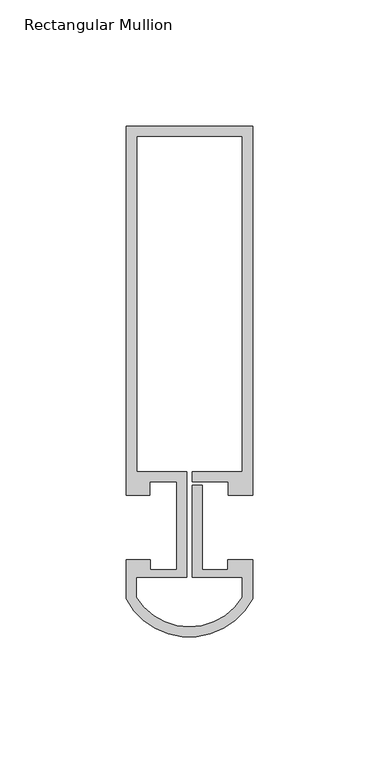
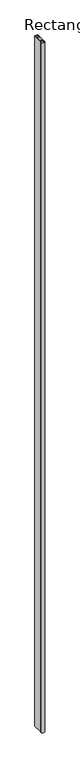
"""IFC4 building model written with IfcOpenShell, lengths in millimetres: member geometry, Rectangular Mullion : Reynaers_CW-50_Transom-Transom_Horizontal_146.5mm_Facecap-07."""

import ifcopenshell
import ifcopenshell.guid

model = None  # the IFC model being written
_history = None  # IfcOwnerHistory: only IFC2X3 demands one
_inside = {}  # id of a spatial element -> (the spatial element, [elements in it])
_under = {}  # id of a project, library or spatial element -> (it, [spatial elements below it])
_declared = {}  # id of a project -> (the project, [libraries it declares])
_typed = {}  # id of a type object -> (the type object, [elements of that type])
_made_of = {}  # id of a material, layer set ... -> (it, [elements and type objects made of it])


def new_model(schema):
    """Start an empty IFC model of exactly this schema.

    Asked for "IFC4X3", IfcOpenShell would pick the latest addendum, in which some entities
    have other attributes; the version numbers below select the first issue.
    IFC2X3 requires an IfcOwnerHistory on every rooted entity: one is made here for all.
    """
    global model, _history
    if schema == "IFC4X3":
        model = ifcopenshell.file(schema_version=(4, 3, 0, 0))
    else:
        model = ifcopenshell.file(schema=schema)
    _inside.clear()
    _under.clear()
    _declared.clear()
    _typed.clear()
    _made_of.clear()
    _history = None
    if model.schema == "IFC2X3":
        org = make("IfcOrganization", Name="unknown")
        user = make(
            "IfcPersonAndOrganization",
            ThePerson=make("IfcPerson", FamilyName="unknown"),
            TheOrganization=org,
        )
        app = make(
            "IfcApplication",
            ApplicationDeveloper=org,
            Version="unknown",
            ApplicationFullName="unknown",
            ApplicationIdentifier="unknown",
        )
        _history = make(
            "IfcOwnerHistory",
            OwningUser=user,
            OwningApplication=app,
            ChangeAction="ADDED",
            CreationDate=0,
        )
    return model


def make(cls, **values):
    """One entity of the class cls with the attributes given. An attribute that is None is left unset."""
    return model.create_entity(
        cls, **{name: value for name, value in values.items() if value is not None}
    )


def rooted(cls, **values):
    """An entity with a GlobalId (a new one), such as an element, a storey or a relation."""
    return make(cls, GlobalId=ifcopenshell.guid.new(), OwnerHistory=_history, **values)


def si_unit(unit_type, name, prefix=None):
    """IfcSIUnit, for example si_unit("LENGTHUNIT", "METRE", prefix="MILLI")."""
    return make("IfcSIUnit", UnitType=unit_type, Prefix=prefix, Name=name)


def assignment(units):
    """IfcUnitAssignment: the units of a project."""
    return None if units is None else make("IfcUnitAssignment", Units=units)


def point(xyz):
    """IfcCartesianPoint."""
    return None if xyz is None else make("IfcCartesianPoint", Coordinates=xyz)


def direction(xyz):
    """IfcDirection."""
    return None if xyz is None else make("IfcDirection", DirectionRatios=xyz)


def frame(location, z_axis=None, x_axis=None):
    """IfcAxis2Placement3D, a coordinate frame: its origin and axes. An axis left out is left unset."""
    return make(
        "IfcAxis2Placement3D",
        Location=point(location),
        Axis=direction(z_axis),
        RefDirection=direction(x_axis),
    )


def frame_2d(location, x_axis=None):
    """IfcAxis2Placement2D, a coordinate frame in the plane: its origin and x axis."""
    return make(
        "IfcAxis2Placement2D", Location=point(location), RefDirection=direction(x_axis)
    )


def origin():
    """The frame at (0, 0, 0) with its axes left unset."""
    return frame((0.0, 0.0, 0.0))


def place(relative_to, where):
    """IfcLocalPlacement: puts the frame where relative to a parent placement (None: the world)."""
    return make(
        "IfcLocalPlacement", PlacementRelTo=relative_to, RelativePlacement=where
    )


def context(
    kind, dimensions, precision=None, world=None, true_north=None, identifier=None
):
    """IfcGeometricRepresentationContext, for example the 3D "Model" context."""
    return make(
        "IfcGeometricRepresentationContext",
        ContextIdentifier=identifier,
        ContextType=kind,
        CoordinateSpaceDimension=dimensions,
        Precision=precision,
        WorldCoordinateSystem=world,
        TrueNorth=true_north,
    )


def project(units=None, contexts=None):
    """IfcProject with its units and contexts."""
    return rooted(
        "IfcProject",
        Name="project",
        RepresentationContexts=contexts,
        UnitsInContext=assignment(units),
    )


def spatial(cls, under=None, at=None, **own):
    """A site, building, storey or space (cls), placed at a placement, below another one or the project."""
    s = rooted(cls, ObjectPlacement=at, **own)
    if under is not None:
        _under.setdefault(under.id(), (under, []))[1].append(s)
    return s


def polyline(points):
    """IfcPolyline through the points."""
    return make("IfcPolyline", Points=[point(p) for p in points])


def circle_curve(where, radius):
    """IfcCircle in the frame where."""
    return make("IfcCircle", Position=where, Radius=radius)


def trimmed(basis, trim1, trim2, sense, master):
    """IfcTrimmedCurve: the piece of a basis curve between two trims."""
    return make(
        "IfcTrimmedCurve",
        BasisCurve=basis,
        Trim1=trim1,
        Trim2=trim2,
        SenseAgreement=sense,
        MasterRepresentation=master,
    )


def segment(curve, same_sense, transition):
    """IfcCompositeCurveSegment."""
    return make(
        "IfcCompositeCurveSegment",
        Transition=transition,
        SameSense=same_sense,
        ParentCurve=curve,
    )


def composite_curve(segments, self_intersect=None):
    """IfcCompositeCurve: segments joined end to end."""
    return make("IfcCompositeCurve", Segments=segments, SelfIntersect=self_intersect)


def outline(outer, holes=None, kind="AREA"):
    """IfcArbitraryClosedProfileDef: a profile drawn as a closed curve; with holes, ...WithVoids."""
    if holes is None:
        return make("IfcArbitraryClosedProfileDef", ProfileType=kind, OuterCurve=outer)
    return make(
        "IfcArbitraryProfileDefWithVoids",
        ProfileType=kind,
        OuterCurve=outer,
        InnerCurves=holes,
    )


def extrude(swept, where, along, depth):
    """IfcExtrudedAreaSolid: the profile swept, set in the frame where, extruded along a direction by depth."""
    return make(
        "IfcExtrudedAreaSolid",
        SweptArea=swept,
        Position=where,
        ExtrudedDirection=direction(along),
        Depth=depth,
    )


def shape(context_of_items, identifier, shape_type, items):
    """IfcShapeRepresentation: the items that make up one representation, for example the "Body"."""
    return make(
        "IfcShapeRepresentation",
        ContextOfItems=context_of_items,
        RepresentationIdentifier=identifier,
        RepresentationType=shape_type,
        Items=items,
    )


def source(mapping_origin, context_of_items, identifier, shape_type, items):
    """IfcRepresentationMap: a shape defined once, which mapped items show again and again."""
    return make(
        "IfcRepresentationMap",
        MappingOrigin=mapping_origin,
        MappedRepresentation=shape(context_of_items, identifier, shape_type, items),
    )


def transform(
    local_origin,
    x_axis=None,
    y_axis=None,
    z_axis=None,
    scale=None,
    scale2=None,
    scale3=None,
    uniform=True,
):
    """IfcCartesianTransformationOperator3D, or its non-uniform kind. x_axis, y_axis, z_axis: its Axis1, 2, 3."""
    if uniform:
        return make(
            "IfcCartesianTransformationOperator3D",
            Axis1=direction(x_axis),
            Axis2=direction(y_axis),
            LocalOrigin=point(local_origin),
            Scale=scale,
            Axis3=direction(z_axis),
        )
    return make(
        "IfcCartesianTransformationOperator3DnonUniform",
        Axis1=direction(x_axis),
        Axis2=direction(y_axis),
        LocalOrigin=point(local_origin),
        Scale=scale,
        Axis3=direction(z_axis),
        Scale2=scale2,
        Scale3=scale3,
    )


def mapped(mapping_source, mapping_target):
    """IfcMappedItem: shows the shape of a source again, moved by a transform."""
    return make(
        "IfcMappedItem", MappingSource=mapping_source, MappingTarget=mapping_target
    )


def made_of(thing, what):
    """Note that an element or type object is made of a material, layer set ...; save() writes the relation."""
    if what is not None:
        _made_of.setdefault(what.id(), (what, []))[1].append(thing)
    return thing


def element(
    cls,
    number,
    at=None,
    inside=None,
    cuts=None,
    type_object=None,
    material=None,
    context=None,
    identifier="Body",
    shape_type=None,
    held_by="IfcProductDefinitionShape",
    body=None,
    shapes=None,
    **own,
):
    """One element of the class cls, such as IfcWall. Its Tag is "e" and its number.

    at: its placement. inside: the storey or other place that contains it. cuts: it is an
    opening in that element (IfcRelVoidsElement). A single representation is given by context,
    identifier, shape_type and body (its items); several are given by shapes. held_by: the class
    of the entity that holds the representations. save() writes the other relations.
    """
    e = rooted(cls, Tag="e%d" % number, ObjectPlacement=at, **own)
    if body is not None:
        shapes = [shape(context, identifier, shape_type, body)]
    if shapes is not None:
        e.Representation = make(held_by, Representations=shapes)
    if inside is not None:
        _inside.setdefault(inside.id(), (inside, []))[1].append(e)
    if cuts is not None:
        rooted(
            "IfcRelVoidsElement", RelatingBuildingElement=cuts, RelatedOpeningElement=e
        )
    if type_object is not None:
        _typed.setdefault(type_object.id(), (type_object, []))[1].append(e)
    return made_of(e, material)


def aggregate(whole, parts):
    """IfcRelAggregates: a whole, such as a stair, and the parts it consists of."""
    return rooted("IfcRelAggregates", RelatingObject=whole, RelatedObjects=parts)


def save(model, path):
    """Write the relations noted so far, then the file.

    IfcRelAggregates (storeys below a building ...), IfcRelContainedInSpatialStructure (elements
    in a storey), IfcRelDefinesByType, IfcRelAssociatesMaterial and IfcRelDeclares: one each for
    every whole, place, type object, material and project.
    """
    for whole, parts in _under.values():
        aggregate(whole, parts)
    for where, things in _inside.values():
        rooted(
            "IfcRelContainedInSpatialStructure",
            RelatedElements=things,
            RelatingStructure=where,
        )
    for kind, things in _typed.values():
        rooted("IfcRelDefinesByType", RelatedObjects=things, RelatingType=kind)
    for what, things in _made_of.values():
        rooted("IfcRelAssociatesMaterial", RelatedObjects=things, RelatingMaterial=what)
    for by, libraries in _declared.values():
        rooted("IfcRelDeclares", RelatingContext=by, RelatedDefinitions=libraries)
    model.write(path)


def rectangular_mullion_2b170341(model_context):
    return source(origin(), model_context, "Body", "SweptSolid", [
        extrude(outline(composite_curve([segment(polyline([(25.1995941, 12.7331291), (15.499, 12.7331291), (15.499, 18.1331291), (1.2995941, 18.1331291), (1.2995941, 22.1331291), (21.1995941, 22.1331291), (21.1995941, 155.2331291), (-20.8004059, 155.2331291), (-20.8004059, 22.1331291), (-0.9004059, 22.1331291), (-0.9004059, -19.7331291), (-20.960579, -19.7331291), (-20.960579, -27.7331291)]), True, "CONTINUOUS"), segment(trimmed(circle_curve(frame_2d((0.1195075, -14.5934909)), 24.8398901), [point((-20.960579, -27.7331291))], [point((21.1995941, -27.7331291))], True, "CARTESIAN"), True, "CONTINUOUS"), segment(polyline([(21.1995941, -27.7331291), (21.1995941, -19.7331291), (1.2995941, -19.7331291), (1.2995941, 16.7615089), (5.2995941, 16.7615089), (5.2995941, -16.7331291), (15.2996495, -16.7331291), (15.2996495, -12.7331291), (25.1995941, -12.7331291), (25.1995941, -28.2927678)]), True, "CONTINUOUS"), segment(trimmed(circle_curve(frame_2d((0.1195075, -15.0907737)), 28.3426074), [point((25.1995941, -28.2927678))], [point((-24.960579, -28.2927678))], False, "CARTESIAN"), True, "CONTINUOUS"), segment(polyline([(-24.960579, -28.2927678), (-24.960579, -12.7331291), (-15.2996495, -12.7331291), (-15.2996495, -16.7331291), (-4.9004059, -16.7331291), (-4.9004059, 18.1331291), (-15.499, 18.1331291), (-15.499, 12.7331291), (-24.8004059, 12.7331291), (-24.8004059, 159.2331291), (25.1995941, 159.2331291), (25.1995941, 12.7331291)]), True, "CONTINUOUS")], self_intersect=False)), frame((0.0, 0.0, -12000.0), z_axis=(0.0, 0.0, 1.0), x_axis=(1.0, 0.0, 0.0)), (0.0, 0.0, 1.0), 12000.0),
    ])


if __name__ == "__main__":
    model = new_model("IFC4")
    model_context = context("Model", 3, world=origin())
    ifc_project = project(units=[si_unit("LENGTHUNIT", "METRE", prefix="MILLI")], contexts=[model_context])
    site = spatial("IfcSite", under=ifc_project)
    building = spatial("IfcBuilding", under=site)
    placement = place(None, origin())
    rectangular_mullion_shape = rectangular_mullion_2b170341(model_context)
    element("IfcMember", 1, ObjectType="Rectangular Mullion : Reynaers_CW-50_Transom-Transom_Horizontal_146.5mm_Facecap-07", at=placement, inside=building, context=model_context, shape_type="MappedRepresentation", body=[
        mapped(rectangular_mullion_shape, transform((0.0, 0.0, 0.0), x_axis=(1.0, 0.0, 0.0), y_axis=(0.0, 1.0, 0.0), z_axis=(0.0, 0.0, 1.0))),
    ])
    save(model, "model.ifc")
